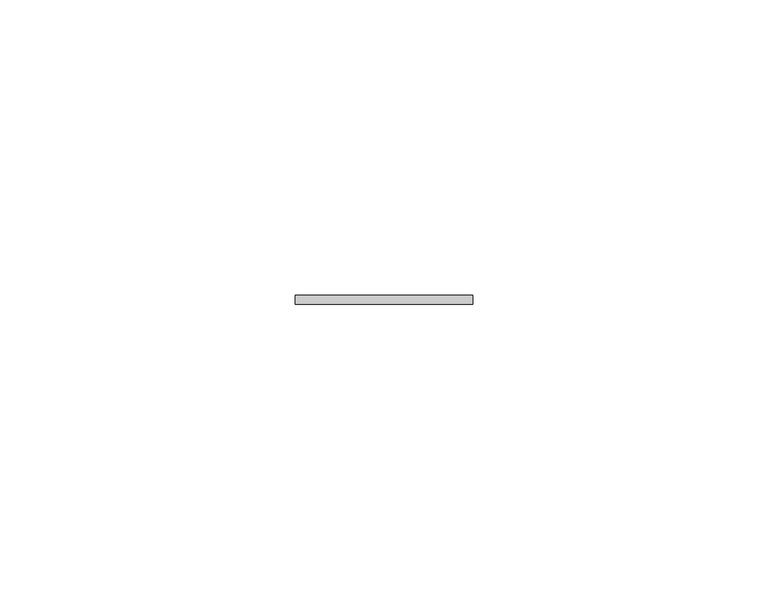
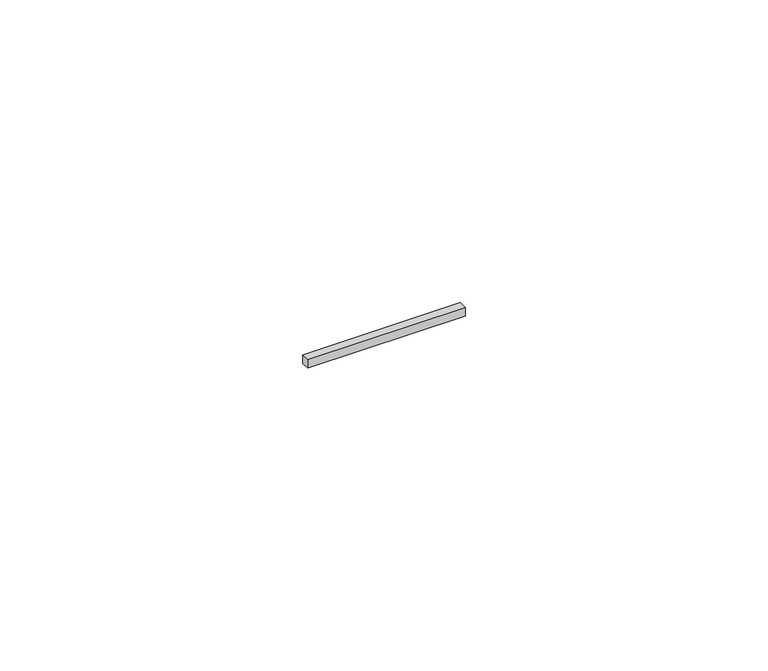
"""IFC4 building model written with IfcOpenShell, lengths in millimetres: proxy geometry, Внешний переключатель байпаса MBSSMLR : MBSSMLR."""

from ifc_helpers import new_model, si_unit, origin, origin_with_axes, place, context, project, spatial, polyline, outline, extrude, source, transform, mapped, element, save


def electrical_equipment_71196d91(model_context):
    return source(origin(), model_context, "Body", "SweptSolid", [
        extrude(outline(polyline([(13.80924, 0.0), (13.80924, -1.5284276), (-16.19076, -1.5284276), (-16.19076, 0.0), (13.80924, 0.0)])), origin_with_axes(), (0.0, 0.0, 1.0), 1.765479),
    ])


if __name__ == "__main__":
    model = new_model("IFC4")
    model_context = context("Model", 3, world=origin())
    ifc_project = project(units=[si_unit("LENGTHUNIT", "METRE", prefix="MILLI")], contexts=[model_context])
    site = spatial("IfcSite", under=ifc_project)
    building = spatial("IfcBuilding", under=site)
    placement = place(None, origin())
    electrical_equipment_shape = electrical_equipment_71196d91(model_context)
    element("IfcBuildingElementProxy", 1, Name="Внешний переключатель байпаса MBSSMLR : MBSSMLR", ObjectType="Внешний переключатель байпаса MBSSMLR : MBSSMLR", at=placement, inside=building, context=model_context, shape_type="MappedRepresentation", body=[
        mapped(electrical_equipment_shape, transform((0.0, 0.0, 0.0), x_axis=(1.0, 0.0, 0.0), y_axis=(0.0, 1.0, 0.0), z_axis=(0.0, 0.0, 1.0))),
    ])
    save(model, "model.ifc")
